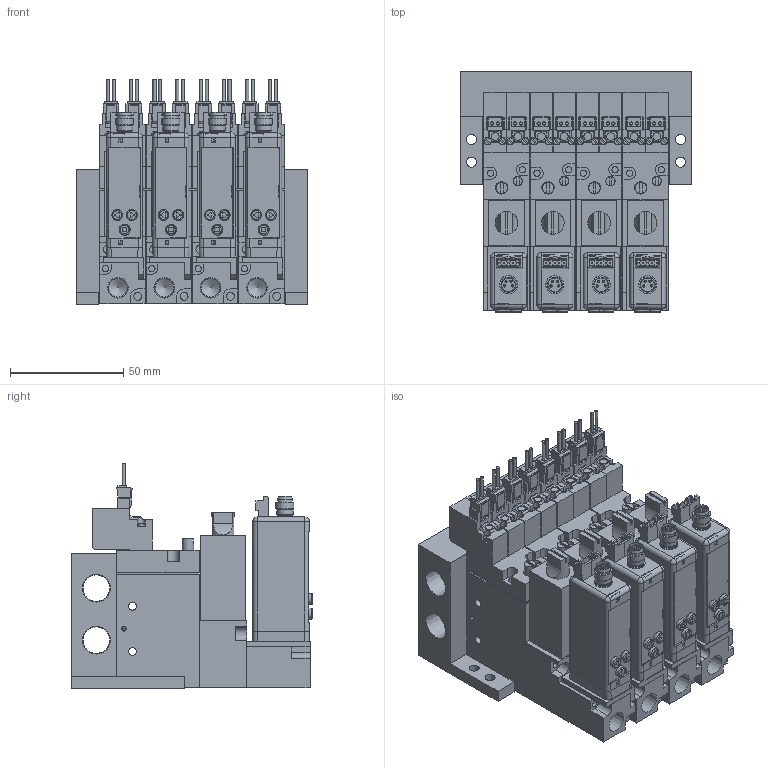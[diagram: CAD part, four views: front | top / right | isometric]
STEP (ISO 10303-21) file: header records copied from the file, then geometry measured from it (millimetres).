
FILE_DESCRIPTION(('STEP AP203'),'1');
FILE_NAME('BMPV32M2N20225BL404.stp','2025-06-16T08:59:54',(' '),(' '),'Spatial InterOp 3D',' ',' ');
FILE_SCHEMA(('CONFIG_CONTROL_DESIGN'));
Length unit declared in the file: millimetre
Products named in the file (52): BMPV32M2N20225BL404; MVS-202; ___-3(Rc); Filter Assy; __; _____; ___ ___; MB BRACKET; MB04; ___; upper plate-A; ______; ____; VACUUM VALVE FUNCTION MPV42-A
Assembly tree (51 placements, depth 2):
  BMPV32M2N20225BL404
    MVS-202
    ___-3(Rc)
    Filter Assy
    __
    _____
    ___ ___
    MVS-202
    ___-3(Rc)
    Filter Assy
    __
    _____
    ___ ___
    MVS-202
    ___-3(Rc)
    Filter Assy
    __
    _____
    ___ ___
    MB BRACKET
    MB BRACKET
    MB04
    MVS-202
    ___-3(Rc)
    Filter Assy
    __
    _____
    ___ ___
    ___
    upper plate-A
    ______
    ____
    VACUUM VALVE FUNCTION MPV42-A
    VACUUM VALVE FUNCTION MPV42-A
    ___
    upper plate-A
    ______
    ____
    VACUUM VALVE FUNCTION MPV42-A
    VACUUM VALVE FUNCTION MPV42-A
    ___
    upper plate-A
    ______
    ____
    VACUUM VALVE FUNCTION MPV42-A
    VACUUM VALVE FUNCTION MPV42-A
    ___
    upper plate-A
    ______
    ____
    VACUUM VALVE FUNCTION MPV42-A
    VACUUM VALVE FUNCTION MPV42-A
Bounding box: 102.5 x 106.6 x 99.75 mm (x, y, z)
Volume: 522254.5 mm3; surface area: 184363.1 mm2
Topology: 51 solids, 67 shells, 3099 faces, 7944 edges, 5212 vertices
Faces by surface type: plane 2529, cylinder 470, cone 72, sphere 16, torus 12
Full cylindrical faces by diameter (mm): 1 x16, 1.4 x16, 1.5 x4, 1.8 x8, 2 x8, 2.5 x12, 2.8 x16, 3 x16, 3.5 x44, 4 x4, 4.2 x4, 4.5 x20, 4.8 x12, 5 x12, 5.5 x4, 5.8 x8, 6 x4, 6.5 x18, 7 x4, 7.2 x4, 7.9 x4, 8 x8, 8.2 x4, 8.759 x4, 11.776 x2
Entity records: 93518 total; most frequent: CARTESIAN_POINT 16319, ORIENTED_EDGE 14952, DIRECTION 14906, EDGE_CURVE 7476, LINE 6220, VECTOR 6220, VERTEX_POINT 5132, AXIS2_PLACEMENT_3D 4343
